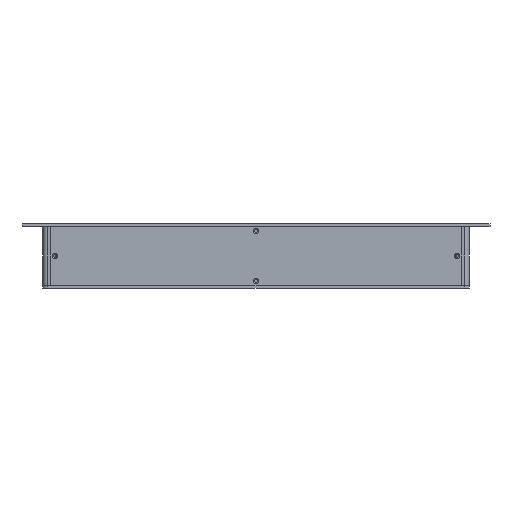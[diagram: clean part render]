
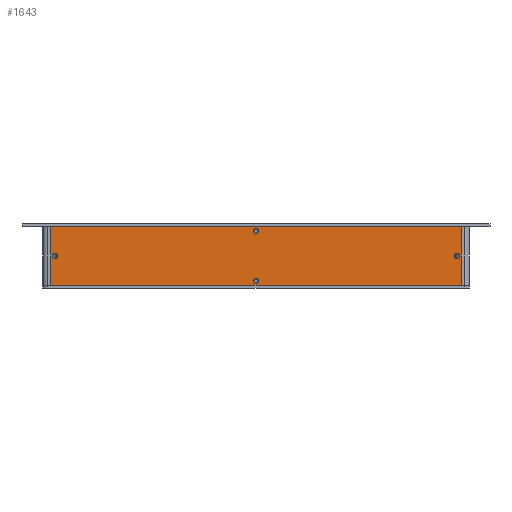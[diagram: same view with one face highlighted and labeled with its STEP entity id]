
A CAD part, front view. The second image highlights one B-rep face of the part: STEP entity #1643.
In plain terms, the highlighted planar face has unit normal (0, -1, 0) as drawn and (0, 1, 0) by its records, which use the part's own axes.
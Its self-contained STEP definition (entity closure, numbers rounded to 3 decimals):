
#39 = EDGE_LOOP ( 'NONE', ( #11829, #8838 ) ) ;
#223 = EDGE_CURVE ( 'NONE', #17243, #15902, #6004, .T. ) ;
#301 = DIRECTION ( 'NONE',  ( 0., -1., 0. ) ) ;
#776 = CARTESIAN_POINT ( 'NONE',  ( 211.6, 0.75, -60. ) ) ;
#834 = ORIENTED_EDGE ( 'NONE', *, *, #2885, .T. ) ;
#988 = EDGE_LOOP ( 'NONE', ( #7579, #8646, #1268, #834 ) ) ;
#1029 = CARTESIAN_POINT ( 'NONE',  ( 211.6, 0.75, 0. ) ) ;
#1067 = CIRCLE ( 'NONE', #11547, 2.8 ) ;
#1077 = VECTOR ( 'NONE', #8579, 1000. ) ;
#1113 = ORIENTED_EDGE ( 'NONE', *, *, #14810, .T. ) ;
#1124 = DIRECTION ( 'NONE',  ( 0., 0., 1. ) ) ;
#1173 = EDGE_CURVE ( 'NONE', #1418, #3945, #11572, .T. ) ;
#1268 = ORIENTED_EDGE ( 'NONE', *, *, #1173, .T. ) ;
#1332 = DIRECTION ( 'NONE',  ( 0., -1., 0. ) ) ;
#1337 = DIRECTION ( 'NONE',  ( 0., -1., 0. ) ) ;
#1357 = CARTESIAN_POINT ( 'NONE',  ( -211.6, 0.75, 0. ) ) ;
#1418 = VERTEX_POINT ( 'NONE', #776 ) ;
#1458 = CARTESIAN_POINT ( 'NONE',  ( 211.6, 0.75, -60. ) ) ;
#1643 = ADVANCED_FACE ( 'NONE', ( #16037, #11738, #7430, #13134, #4797 ), #11641, .T. ) ;
#1803 = AXIS2_PLACEMENT_3D ( 'NONE', #13411, #301, #10597 ) ;
#2047 = CARTESIAN_POINT ( 'NONE',  ( 0., 0.75, -58.5 ) ) ;
#2351 = VECTOR ( 'NONE', #16135, 1000. ) ;
#2885 = EDGE_CURVE ( 'NONE', #3945, #14108, #10144, .T. ) ;
#3153 = AXIS2_PLACEMENT_3D ( 'NONE', #4427, #1337, #7060 ) ;
#3481 = AXIS2_PLACEMENT_3D ( 'NONE', #7661, #5890, #6251 ) ;
#3655 = CARTESIAN_POINT ( 'NONE',  ( 0., 0.75, -55.7 ) ) ;
#3812 = CIRCLE ( 'NONE', #8602, 2.8 ) ;
#3847 = EDGE_CURVE ( 'NONE', #4912, #14108, #16553, .T. ) ;
#3945 = VERTEX_POINT ( 'NONE', #13051 ) ;
#4427 = CARTESIAN_POINT ( 'NONE',  ( -207.5, 0.75, -30. ) ) ;
#4561 = CARTESIAN_POINT ( 'NONE',  ( 207.5, 0.75, -27.2 ) ) ;
#4568 = ORIENTED_EDGE ( 'NONE', *, *, #8716, .T. ) ;
#4797 = FACE_OUTER_BOUND ( 'NONE', #988, .T. ) ;
#4826 = VERTEX_POINT ( 'NONE', #11071 ) ;
#4912 = VERTEX_POINT ( 'NONE', #1029 ) ;
#5182 = EDGE_CURVE ( 'NONE', #15902, #17243, #6119, .T. ) ;
#5220 = DIRECTION ( 'NONE',  ( 0., 0., 1. ) ) ;
#5345 = DIRECTION ( 'NONE',  ( 0., -1., 0. ) ) ;
#5393 = CARTESIAN_POINT ( 'NONE',  ( 207.5, 0.75, -32.8 ) ) ;
#5524 = CARTESIAN_POINT ( 'NONE',  ( -207.5, 0.75, -27.2 ) ) ;
#5555 = CIRCLE ( 'NONE', #3153, 2.8 ) ;
#5572 = EDGE_LOOP ( 'NONE', ( #4568, #17576 ) ) ;
#5576 = DIRECTION ( 'NONE',  ( 0., 0., 1. ) ) ;
#5890 = DIRECTION ( 'NONE',  ( 0., -1., 0. ) ) ;
#6004 = CIRCLE ( 'NONE', #13179, 2.8 ) ;
#6101 = CARTESIAN_POINT ( 'NONE',  ( -211.6, 0.75, -60. ) ) ;
#6119 = CIRCLE ( 'NONE', #18092, 2.8 ) ;
#6251 = DIRECTION ( 'NONE',  ( 0., 0., 1. ) ) ;
#6286 = DIRECTION ( 'NONE',  ( 0., 1., 0. ) ) ;
#6723 = AXIS2_PLACEMENT_3D ( 'NONE', #6101, #6286, #17730 ) ;
#6745 = EDGE_LOOP ( 'NONE', ( #12436, #8676 ) ) ;
#7060 = DIRECTION ( 'NONE',  ( 0., 0., 1. ) ) ;
#7212 = VERTEX_POINT ( 'NONE', #14921 ) ;
#7355 = ORIENTED_EDGE ( 'NONE', *, *, #12157, .T. ) ;
#7406 = CARTESIAN_POINT ( 'NONE',  ( 207.5, 0.75, -30. ) ) ;
#7430 = FACE_BOUND ( 'NONE', #18327, .T. ) ;
#7575 = EDGE_CURVE ( 'NONE', #4826, #16867, #9357, .T. ) ;
#7579 = ORIENTED_EDGE ( 'NONE', *, *, #3847, .F. ) ;
#7661 = CARTESIAN_POINT ( 'NONE',  ( 0., 0.75, -55.7 ) ) ;
#7687 = CIRCLE ( 'NONE', #3481, 2.8 ) ;
#8411 = DIRECTION ( 'NONE',  ( -1., 0., 0. ) ) ;
#8579 = DIRECTION ( 'NONE',  ( 0., 0., 1. ) ) ;
#8602 = AXIS2_PLACEMENT_3D ( 'NONE', #13650, #12341, #5220 ) ;
#8646 = ORIENTED_EDGE ( 'NONE', *, *, #17691, .F. ) ;
#8676 = ORIENTED_EDGE ( 'NONE', *, *, #12314, .T. ) ;
#8716 = EDGE_CURVE ( 'NONE', #11948, #17758, #10187, .T. ) ;
#8838 = ORIENTED_EDGE ( 'NONE', *, *, #5182, .T. ) ;
#9169 = DIRECTION ( 'NONE',  ( 0., -1., 0. ) ) ;
#9295 = VERTEX_POINT ( 'NONE', #2047 ) ;
#9357 = CIRCLE ( 'NONE', #14748, 2.8 ) ;
#9972 = DIRECTION ( 'NONE',  ( 0., -1., 0. ) ) ;
#10144 = LINE ( 'NONE', #11922, #2351 ) ;
#10187 = CIRCLE ( 'NONE', #1803, 2.8 ) ;
#10597 = DIRECTION ( 'NONE',  ( 0., 0., 1. ) ) ;
#11071 = CARTESIAN_POINT ( 'NONE',  ( 0., 0.75, -1.5 ) ) ;
#11547 = AXIS2_PLACEMENT_3D ( 'NONE', #3655, #5345, #1124 ) ;
#11572 = LINE ( 'NONE', #17387, #11980 ) ;
#11641 = PLANE ( 'NONE',  #6723 ) ;
#11661 = LINE ( 'NONE', #1458, #1077 ) ;
#11738 = FACE_BOUND ( 'NONE', #6745, .T. ) ;
#11829 = ORIENTED_EDGE ( 'NONE', *, *, #223, .T. ) ;
#11922 = CARTESIAN_POINT ( 'NONE',  ( -211.6, 0.75, -60. ) ) ;
#11937 = CARTESIAN_POINT ( 'NONE',  ( -207.5, 0.75, -32.8 ) ) ;
#11948 = VERTEX_POINT ( 'NONE', #5524 ) ;
#11980 = VECTOR ( 'NONE', #8411, 1000. ) ;
#11991 = DIRECTION ( 'NONE',  ( 0., 0., 1. ) ) ;
#12157 = EDGE_CURVE ( 'NONE', #7212, #9295, #7687, .T. ) ;
#12314 = EDGE_CURVE ( 'NONE', #16867, #4826, #3812, .T. ) ;
#12341 = DIRECTION ( 'NONE',  ( 0., -1., 0. ) ) ;
#12426 = CARTESIAN_POINT ( 'NONE',  ( -211.6, 0.75, 0. ) ) ;
#12436 = ORIENTED_EDGE ( 'NONE', *, *, #7575, .T. ) ;
#12700 = CARTESIAN_POINT ( 'NONE',  ( 207.5, 0.75, -30. ) ) ;
#12948 = CARTESIAN_POINT ( 'NONE',  ( 0., 0.75, -4.3 ) ) ;
#13051 = CARTESIAN_POINT ( 'NONE',  ( -211.6, 0.75, -60. ) ) ;
#13134 = FACE_BOUND ( 'NONE', #5572, .T. ) ;
#13179 = AXIS2_PLACEMENT_3D ( 'NONE', #12700, #9972, #5576 ) ;
#13411 = CARTESIAN_POINT ( 'NONE',  ( -207.5, 0.75, -30. ) ) ;
#13650 = CARTESIAN_POINT ( 'NONE',  ( 0., 0.75, -4.3 ) ) ;
#14108 = VERTEX_POINT ( 'NONE', #1357 ) ;
#14357 = DIRECTION ( 'NONE',  ( 0., 0., 1. ) ) ;
#14748 = AXIS2_PLACEMENT_3D ( 'NONE', #12948, #1332, #14357 ) ;
#14810 = EDGE_CURVE ( 'NONE', #9295, #7212, #1067, .T. ) ;
#14921 = CARTESIAN_POINT ( 'NONE',  ( 0., 0.75, -52.9 ) ) ;
#15679 = CARTESIAN_POINT ( 'NONE',  ( 0., 0.75, -7.1 ) ) ;
#15902 = VERTEX_POINT ( 'NONE', #5393 ) ;
#16037 = FACE_BOUND ( 'NONE', #39, .T. ) ;
#16135 = DIRECTION ( 'NONE',  ( 0., 0., 1. ) ) ;
#16553 = LINE ( 'NONE', #12426, #18450 ) ;
#16775 = EDGE_CURVE ( 'NONE', #17758, #11948, #5555, .T. ) ;
#16867 = VERTEX_POINT ( 'NONE', #15679 ) ;
#17243 = VERTEX_POINT ( 'NONE', #4561 ) ;
#17387 = CARTESIAN_POINT ( 'NONE',  ( -211.6, 0.75, -60. ) ) ;
#17576 = ORIENTED_EDGE ( 'NONE', *, *, #16775, .T. ) ;
#17691 = EDGE_CURVE ( 'NONE', #1418, #4912, #11661, .T. ) ;
#17730 = DIRECTION ( 'NONE',  ( 0., 0., 1. ) ) ;
#17758 = VERTEX_POINT ( 'NONE', #11937 ) ;
#18058 = DIRECTION ( 'NONE',  ( -1., 0., 0. ) ) ;
#18092 = AXIS2_PLACEMENT_3D ( 'NONE', #7406, #9169, #11991 ) ;
#18327 = EDGE_LOOP ( 'NONE', ( #7355, #1113 ) ) ;
#18450 = VECTOR ( 'NONE', #18058, 1000. ) ;
